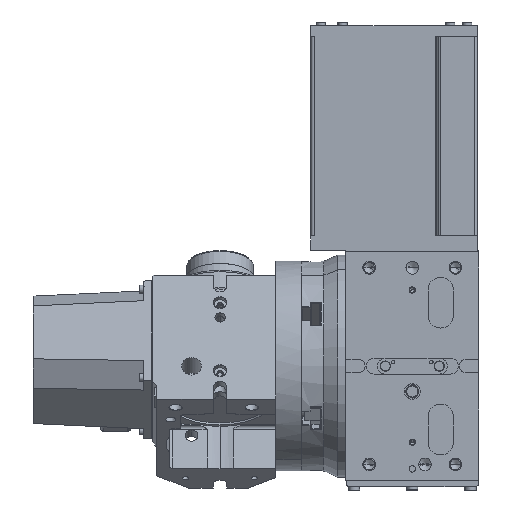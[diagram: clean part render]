
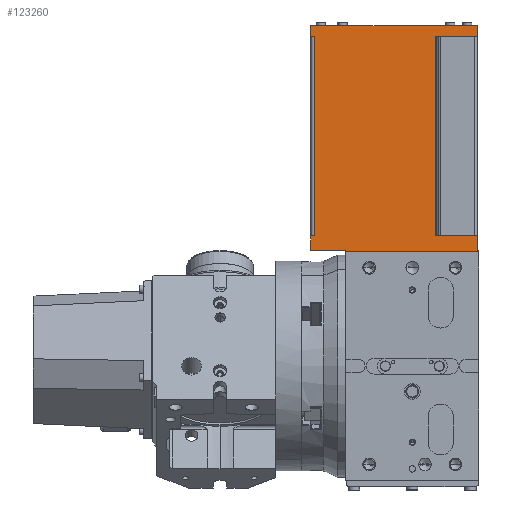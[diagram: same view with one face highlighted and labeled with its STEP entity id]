
A CAD part, front view. The second image highlights one B-rep face of the part: STEP entity #123260.
In plain terms, the highlighted planar face has unit normal (0, -1, 0).
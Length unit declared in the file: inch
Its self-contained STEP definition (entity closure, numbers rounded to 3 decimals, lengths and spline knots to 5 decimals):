
#663 = DIRECTION ( 'NONE',  ( 0., 0., -1. ) ) ;
#1212 = DIRECTION ( 'NONE',  ( -1., 0., 0. ) ) ;
#4933 = LINE ( 'NONE', #78698, #118025 ) ;
#8017 = LINE ( 'NONE', #65622, #116914 ) ;
#8687 = ORIENTED_EDGE ( 'NONE', *, *, #109325, .T. ) ;
#10280 = LINE ( 'NONE', #115507, #10858 ) ;
#10858 = VECTOR ( 'NONE', #48499, 39.37008 ) ;
#12572 = VERTEX_POINT ( 'NONE', #39460 ) ;
#14285 = CARTESIAN_POINT ( 'NONE',  ( -4., -5.94, 4.562 ) ) ;
#14509 = CARTESIAN_POINT ( 'NONE',  ( 0.92, -5.94, 12.97545 ) ) ;
#14866 = AXIS2_PLACEMENT_3D ( 'NONE', #52168, #92810, #19531 ) ;
#14971 = CARTESIAN_POINT ( 'NONE',  ( -3.8714, -5.94, 12.97545 ) ) ;
#15113 = VERTEX_POINT ( 'NONE', #14285 ) ;
#15346 = EDGE_CURVE ( 'NONE', #85172, #40179, #109971, .T. ) ;
#16547 = CARTESIAN_POINT ( 'NONE',  ( -4., -5.94, 12.97545 ) ) ;
#18409 = EDGE_CURVE ( 'NONE', #70924, #114718, #8017, .T. ) ;
#19087 = ORIENTED_EDGE ( 'NONE', *, *, #57492, .F. ) ;
#19531 = DIRECTION ( 'NONE',  ( -1., 0., 0. ) ) ;
#21182 = VERTEX_POINT ( 'NONE', #70313 ) ;
#21754 = LINE ( 'NONE', #98683, #114124 ) ;
#21930 = LINE ( 'NONE', #114162, #76239 ) ;
#22326 = CARTESIAN_POINT ( 'NONE',  ( -4., -5.94, 12.97545 ) ) ;
#26698 = LINE ( 'NONE', #53616, #107152 ) ;
#28614 = CARTESIAN_POINT ( 'NONE',  ( 0.92, -5.94, 5.13265 ) ) ;
#31226 = CARTESIAN_POINT ( 'NONE',  ( 2.565, -5.94, 13.4211 ) ) ;
#31555 = VERTEX_POINT ( 'NONE', #14509 ) ;
#32194 = CARTESIAN_POINT ( 'NONE',  ( -3.8714, -5.94, 12.97545 ) ) ;
#33831 = ORIENTED_EDGE ( 'NONE', *, *, #97493, .F. ) ;
#34356 = CARTESIAN_POINT ( 'NONE',  ( 2.565, -5.94, 4.5 ) ) ;
#35073 = VERTEX_POINT ( 'NONE', #89071 ) ;
#37368 = VECTOR ( 'NONE', #80714, 39.37008 ) ;
#38568 = LINE ( 'NONE', #105437, #109678 ) ;
#39460 = CARTESIAN_POINT ( 'NONE',  ( -4., -5.94, 13.4211 ) ) ;
#39848 = ORIENTED_EDGE ( 'NONE', *, *, #68642, .T. ) ;
#40179 = VERTEX_POINT ( 'NONE', #14971 ) ;
#41119 = VECTOR ( 'NONE', #663, 39.37008 ) ;
#41308 = EDGE_CURVE ( 'NONE', #12572, #85172, #89523, .T. ) ;
#42001 = DIRECTION ( 'NONE',  ( 0., 0., 1. ) ) ;
#45566 = ORIENTED_EDGE ( 'NONE', *, *, #15346, .T. ) ;
#47996 = VECTOR ( 'NONE', #93005, 39.37008 ) ;
#48499 = DIRECTION ( 'NONE',  ( -1., 0., 0. ) ) ;
#52168 = CARTESIAN_POINT ( 'NONE',  ( 0., -5.94, 0. ) ) ;
#52381 = VERTEX_POINT ( 'NONE', #56517 ) ;
#53408 = PLANE ( 'NONE',  #14866 ) ;
#53616 = CARTESIAN_POINT ( 'NONE',  ( -4., -5.94, 5.13265 ) ) ;
#54025 = VERTEX_POINT ( 'NONE', #112556 ) ;
#54784 = LINE ( 'NONE', #105455, #47996 ) ;
#54871 = VERTEX_POINT ( 'NONE', #80040 ) ;
#56163 = VECTOR ( 'NONE', #70246, 39.37008 ) ;
#56198 = VECTOR ( 'NONE', #85522, 39.37008 ) ;
#56517 = CARTESIAN_POINT ( 'NONE',  ( 2.565, -5.94, 13.4211 ) ) ;
#56836 = VERTEX_POINT ( 'NONE', #121390 ) ;
#57492 = EDGE_CURVE ( 'NONE', #15113, #68363, #21930, .T. ) ;
#59143 = ORIENTED_EDGE ( 'NONE', *, *, #18409, .T. ) ;
#59383 = ORIENTED_EDGE ( 'NONE', *, *, #41308, .T. ) ;
#59653 = LINE ( 'NONE', #32194, #56163 ) ;
#62588 = ORIENTED_EDGE ( 'NONE', *, *, #83227, .T. ) ;
#63218 = EDGE_CURVE ( 'NONE', #56836, #54025, #54784, .T. ) ;
#65622 = CARTESIAN_POINT ( 'NONE',  ( -2.625, -5.94, 4.5 ) ) ;
#65777 = EDGE_CURVE ( 'NONE', #52381, #12572, #116928, .T. ) ;
#67335 = LINE ( 'NONE', #28614, #56198 ) ;
#68363 = VERTEX_POINT ( 'NONE', #122584 ) ;
#68642 = EDGE_CURVE ( 'NONE', #31555, #21182, #21754, .T. ) ;
#70246 = DIRECTION ( 'NONE',  ( 0., 0., -1. ) ) ;
#70313 = CARTESIAN_POINT ( 'NONE',  ( 2.565, -5.94, 12.97545 ) ) ;
#70924 = VERTEX_POINT ( 'NONE', #123556 ) ;
#74346 = DIRECTION ( 'NONE',  ( 1., 0., 0. ) ) ;
#76118 = ORIENTED_EDGE ( 'NONE', *, *, #106315, .F. ) ;
#76239 = VECTOR ( 'NONE', #42001, 39.37008 ) ;
#78246 = EDGE_LOOP ( 'NONE', ( #96199, #98994, #33831, #39848, #62588, #99039, #59383, #45566, #81738, #114763, #19087, #76118, #8687, #59143 ) ) ;
#78698 = CARTESIAN_POINT ( 'NONE',  ( 2.565, -5.94, 12.97545 ) ) ;
#80040 = CARTESIAN_POINT ( 'NONE',  ( -3.8714, -5.94, 5.13265 ) ) ;
#80714 = DIRECTION ( 'NONE',  ( 0., 0., -1. ) ) ;
#81738 = ORIENTED_EDGE ( 'NONE', *, *, #121263, .T. ) ;
#83227 = EDGE_CURVE ( 'NONE', #21182, #52381, #4933, .T. ) ;
#85172 = VERTEX_POINT ( 'NONE', #16547 ) ;
#85522 = DIRECTION ( 'NONE',  ( 0., 0., -1. ) ) ;
#89071 = CARTESIAN_POINT ( 'NONE',  ( -2.625, -5.94, 4.562 ) ) ;
#89523 = LINE ( 'NONE', #118938, #37368 ) ;
#91239 = VECTOR ( 'NONE', #100522, 39.37008 ) ;
#91813 = DIRECTION ( 'NONE',  ( 1., 0., 0. ) ) ;
#92810 = DIRECTION ( 'NONE',  ( 0., 1., 0. ) ) ;
#93005 = DIRECTION ( 'NONE',  ( 1., 0., 0. ) ) ;
#95787 = LINE ( 'NONE', #105171, #41119 ) ;
#96051 = DIRECTION ( 'NONE',  ( 0., 0., -1. ) ) ;
#96199 = ORIENTED_EDGE ( 'NONE', *, *, #117424, .F. ) ;
#97493 = EDGE_CURVE ( 'NONE', #31555, #56836, #67335, .T. ) ;
#98057 = DIRECTION ( 'NONE',  ( 1., 0., 0. ) ) ;
#98683 = CARTESIAN_POINT ( 'NONE',  ( -4., -5.94, 12.97545 ) ) ;
#98994 = ORIENTED_EDGE ( 'NONE', *, *, #63218, .F. ) ;
#99039 = ORIENTED_EDGE ( 'NONE', *, *, #65777, .T. ) ;
#99398 = DIRECTION ( 'NONE',  ( 0., 0., 1. ) ) ;
#100522 = DIRECTION ( 'NONE',  ( 1., 0., 0. ) ) ;
#105171 = CARTESIAN_POINT ( 'NONE',  ( 2.565, -5.94, 5.13265 ) ) ;
#105437 = CARTESIAN_POINT ( 'NONE',  ( -2.625, -5.94, 4.562 ) ) ;
#105455 = CARTESIAN_POINT ( 'NONE',  ( -4., -5.94, 5.13265 ) ) ;
#106315 = EDGE_CURVE ( 'NONE', #35073, #15113, #10280, .T. ) ;
#107152 = VECTOR ( 'NONE', #91813, 39.37008 ) ;
#108069 = EDGE_CURVE ( 'NONE', #68363, #54871, #26698, .T. ) ;
#109325 = EDGE_CURVE ( 'NONE', #35073, #70924, #38568, .T. ) ;
#109678 = VECTOR ( 'NONE', #96051, 39.37008 ) ;
#109971 = LINE ( 'NONE', #22326, #91239 ) ;
#110413 = FACE_OUTER_BOUND ( 'NONE', #78246, .T. ) ;
#112556 = CARTESIAN_POINT ( 'NONE',  ( 2.565, -5.94, 5.13265 ) ) ;
#114124 = VECTOR ( 'NONE', #98057, 39.37008 ) ;
#114162 = CARTESIAN_POINT ( 'NONE',  ( -4., -5.94, 4.562 ) ) ;
#114718 = VERTEX_POINT ( 'NONE', #34356 ) ;
#114763 = ORIENTED_EDGE ( 'NONE', *, *, #108069, .F. ) ;
#115475 = VECTOR ( 'NONE', #1212, 39.37008 ) ;
#115507 = CARTESIAN_POINT ( 'NONE',  ( 2.565, -5.94, 4.562 ) ) ;
#116914 = VECTOR ( 'NONE', #74346, 39.37008 ) ;
#116928 = LINE ( 'NONE', #31226, #115475 ) ;
#117424 = EDGE_CURVE ( 'NONE', #54025, #114718, #95787, .T. ) ;
#118025 = VECTOR ( 'NONE', #99398, 39.37008 ) ;
#118938 = CARTESIAN_POINT ( 'NONE',  ( -4., -5.94, 13.4211 ) ) ;
#121263 = EDGE_CURVE ( 'NONE', #40179, #54871, #59653, .T. ) ;
#121390 = CARTESIAN_POINT ( 'NONE',  ( 0.92, -5.94, 5.13265 ) ) ;
#122584 = CARTESIAN_POINT ( 'NONE',  ( -4., -5.94, 5.13265 ) ) ;
#123260 = ADVANCED_FACE ( 'NONE', ( #110413 ), #53408, .F. ) ;
#123556 = CARTESIAN_POINT ( 'NONE',  ( -2.625, -5.94, 4.5 ) ) ;
